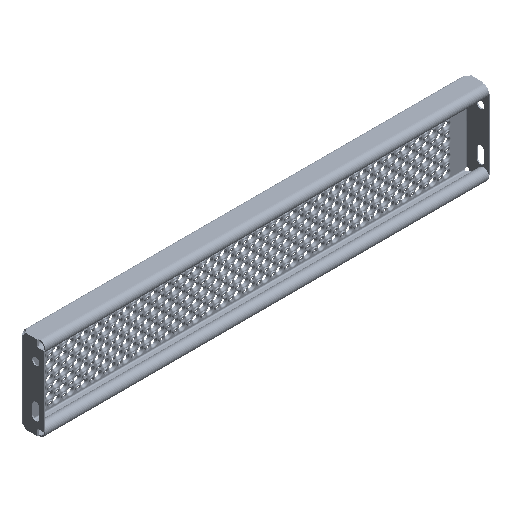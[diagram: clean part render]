
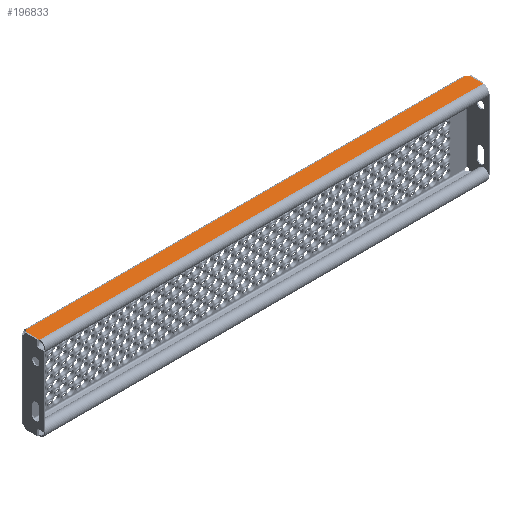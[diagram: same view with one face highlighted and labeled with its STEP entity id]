
A CAD part, isometric view. The second image highlights one B-rep face of the part: STEP entity #196833.
In plain terms, the highlighted planar face has unit normal (0, 0, 1).
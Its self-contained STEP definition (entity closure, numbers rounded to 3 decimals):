
#1669 = DIRECTION ( 'NONE',  ( 0., -1., 0. ) ) ;
#16010 = EDGE_CURVE ( 'NONE', #39604, #81979, #200156, .T. ) ;
#26128 = DIRECTION ( 'NONE',  ( 1., 0., 0. ) ) ;
#29592 = CARTESIAN_POINT ( 'NONE',  ( -397.99, -31.998, 75. ) ) ;
#34408 = CARTESIAN_POINT ( 'NONE',  ( 399., -2.288, 75. ) ) ;
#34416 = CARTESIAN_POINT ( 'NONE',  ( -397.99, -31.998, 75. ) ) ;
#38350 = VECTOR ( 'NONE', #89745, 1000. ) ;
#39604 = VERTEX_POINT ( 'NONE', #97992 ) ;
#42030 = LINE ( 'NONE', #137152, #91333 ) ;
#42383 = LINE ( 'NONE', #29592, #121893 ) ;
#42490 = VERTEX_POINT ( 'NONE', #54711 ) ;
#45375 = VERTEX_POINT ( 'NONE', #127572 ) ;
#52411 = CARTESIAN_POINT ( 'NONE',  ( -399., -2.288, 75. ) ) ;
#54711 = CARTESIAN_POINT ( 'NONE',  ( 394.302, -4., 75. ) ) ;
#55435 = FACE_OUTER_BOUND ( 'NONE', #94010, .T. ) ;
#59555 = EDGE_CURVE ( 'NONE', #39604, #42490, #42030, .T. ) ;
#64171 = EDGE_CURVE ( 'NONE', #45375, #42490, #186746, .T. ) ;
#68215 = DIRECTION ( 'NONE',  ( 0., 0., -1. ) ) ;
#71294 = DIRECTION ( 'NONE',  ( 0., -1., 0. ) ) ;
#73031 = ORIENTED_EDGE ( 'NONE', *, *, #16010, .T. ) ;
#76097 = VERTEX_POINT ( 'NONE', #34416 ) ;
#78103 = CARTESIAN_POINT ( 'NONE',  ( -397.99, -7.185, 75. ) ) ;
#81979 = VERTEX_POINT ( 'NONE', #78103 ) ;
#89745 = DIRECTION ( 'NONE',  ( 0., -1., 0. ) ) ;
#91333 = VECTOR ( 'NONE', #26128, 1000. ) ;
#94010 = EDGE_LOOP ( 'NONE', ( #178367, #202068, #144333, #206244, #73031, #139682 ) ) ;
#97214 = CARTESIAN_POINT ( 'NONE',  ( 397.99, -7.185, 75. ) ) ;
#97713 = EDGE_CURVE ( 'NONE', #81979, #76097, #153178, .T. ) ;
#97992 = CARTESIAN_POINT ( 'NONE',  ( -394.302, -4., 75. ) ) ;
#105452 = AXIS2_PLACEMENT_3D ( 'NONE', #52411, #116812, #181354 ) ;
#106475 = EDGE_CURVE ( 'NONE', #179259, #45375, #117218, .T. ) ;
#106789 = DIRECTION ( 'NONE',  ( 1., 0., 0. ) ) ;
#116812 = DIRECTION ( 'NONE',  ( 0., 0., -1. ) ) ;
#117218 = LINE ( 'NONE', #97214, #119570 ) ;
#119570 = VECTOR ( 'NONE', #163828, 1000. ) ;
#121893 = VECTOR ( 'NONE', #106789, 1000. ) ;
#127572 = CARTESIAN_POINT ( 'NONE',  ( 397.99, -7.185, 75. ) ) ;
#135799 = AXIS2_PLACEMENT_3D ( 'NONE', #184379, #153707, #71294 ) ;
#137152 = CARTESIAN_POINT ( 'NONE',  ( -399., -4., 75. ) ) ;
#139682 = ORIENTED_EDGE ( 'NONE', *, *, #97713, .T. ) ;
#144333 = ORIENTED_EDGE ( 'NONE', *, *, #64171, .T. ) ;
#151523 = EDGE_CURVE ( 'NONE', #76097, #179259, #42383, .T. ) ;
#153178 = LINE ( 'NONE', #173214, #38350 ) ;
#153707 = DIRECTION ( 'NONE',  ( 0., 0., 1. ) ) ;
#163828 = DIRECTION ( 'NONE',  ( 0., 1., 0. ) ) ;
#167476 = PLANE ( 'NONE',  #135799 ) ;
#173214 = CARTESIAN_POINT ( 'NONE',  ( -397.99, -7.185, 75. ) ) ;
#176775 = AXIS2_PLACEMENT_3D ( 'NONE', #34408, #68215, #1669 ) ;
#177339 = CARTESIAN_POINT ( 'NONE',  ( 397.99, -31.998, 75. ) ) ;
#178367 = ORIENTED_EDGE ( 'NONE', *, *, #151523, .T. ) ;
#179259 = VERTEX_POINT ( 'NONE', #177339 ) ;
#181354 = DIRECTION ( 'NONE',  ( 0., -1., 0. ) ) ;
#184379 = CARTESIAN_POINT ( 'NONE',  ( -399., 145.712, 75. ) ) ;
#186746 = CIRCLE ( 'NONE', #176775, 5. ) ;
#196833 = ADVANCED_FACE ( 'NONE', ( #55435 ), #167476, .T. ) ;
#200156 = CIRCLE ( 'NONE', #105452, 5. ) ;
#202068 = ORIENTED_EDGE ( 'NONE', *, *, #106475, .T. ) ;
#206244 = ORIENTED_EDGE ( 'NONE', *, *, #59555, .F. ) ;
